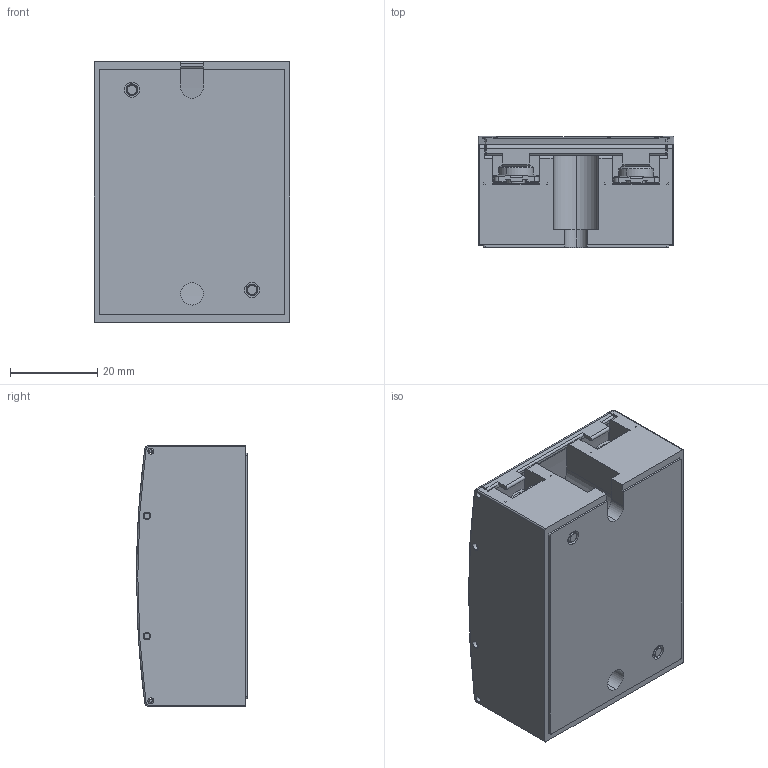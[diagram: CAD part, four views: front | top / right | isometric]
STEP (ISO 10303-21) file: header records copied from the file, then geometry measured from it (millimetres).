
FILE_DESCRIPTION (( 'STEP AP203' ), '1' );
FILE_NAME ('RSD嘐怓樟萇ん 俋倛.STEP', '2022-12-28T05:22:23', ( '' ), ( '' ), 'SwSTEP 2.0', 'SolidWorks 2018', '' );
FILE_SCHEMA (( 'CONFIG_CONTROL_DESIGN' ));
Length unit declared in the file: millimetre
Products named in the file (1): RSD嘐怓樟萇ん 俋倛
Bounding box: 45 x 25.5 x 60 mm (x, y, z)
Volume: 55973.7 mm3; surface area: 21009.5 mm2
Topology: 2 solids, 10 shells, 1656 faces, 4473 edges, 2789 vertices
Faces by surface type: plane 887, cylinder 478, torus 132, bspline 82, sphere 65, cone 12
Entity records: 54754 total; most frequent: CARTESIAN_POINT 13812, ORIENTED_EDGE 8828, DIRECTION 8273, EDGE_CURVE 4414, VERTEX_POINT 2783, AXIS2_PLACEMENT_3D 2764, LINE 2745, VECTOR 2745
